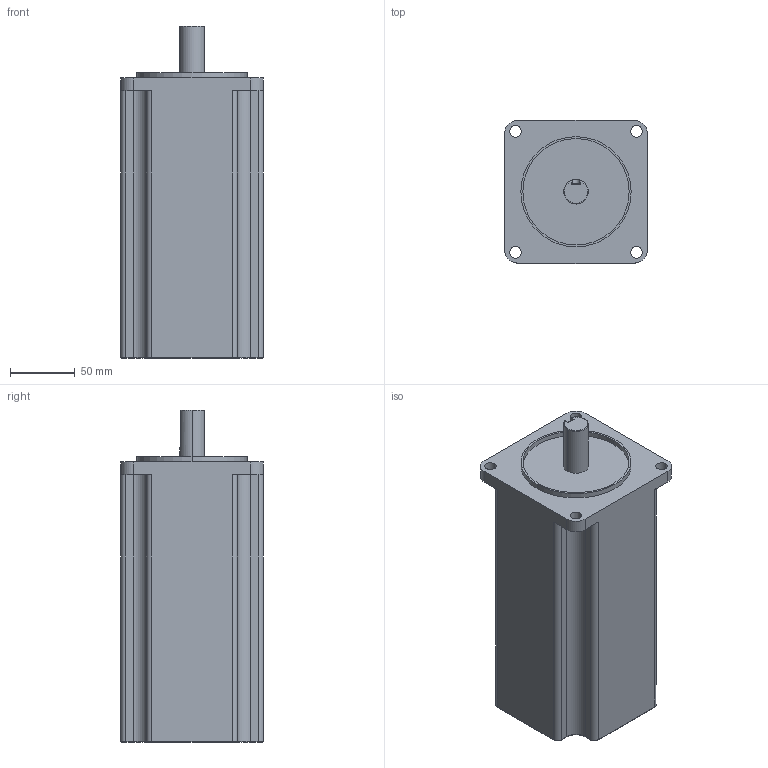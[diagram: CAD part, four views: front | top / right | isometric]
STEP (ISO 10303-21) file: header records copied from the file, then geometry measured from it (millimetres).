
FILE_DESCRIPTION (( 'STEP AP203' ), '1' );
FILE_NAME ('TM4204C70A.STEP', '2019-04-28T06:17:08', ( 'User' ), ( 'www.dadighost.com' ), 'SwSTEP 2.0', 'SolidWorks 2014', '' );
FILE_SCHEMA (( 'CONFIG_CONTROL_DESIGN' ));
Length unit declared in the file: millimetre
Products named in the file (1): TM4204C70A
Bounding box: 110 x 110 x 256 mm (x, y, z)
Volume: 2304922.4 mm3; surface area: 117707.2 mm2
Topology: 1 solids, 1 shells, 85 faces, 210 edges, 130 vertices
Faces by surface type: cylinder 46, plane 24, torus 15
Entity records: 2659 total; most frequent: DIRECTION 480, CARTESIAN_POINT 477, ORIENTED_EDGE 420, EDGE_CURVE 210, AXIS2_PLACEMENT_3D 189, VERTEX_POINT 130, CIRCLE 103, VECTOR 102
